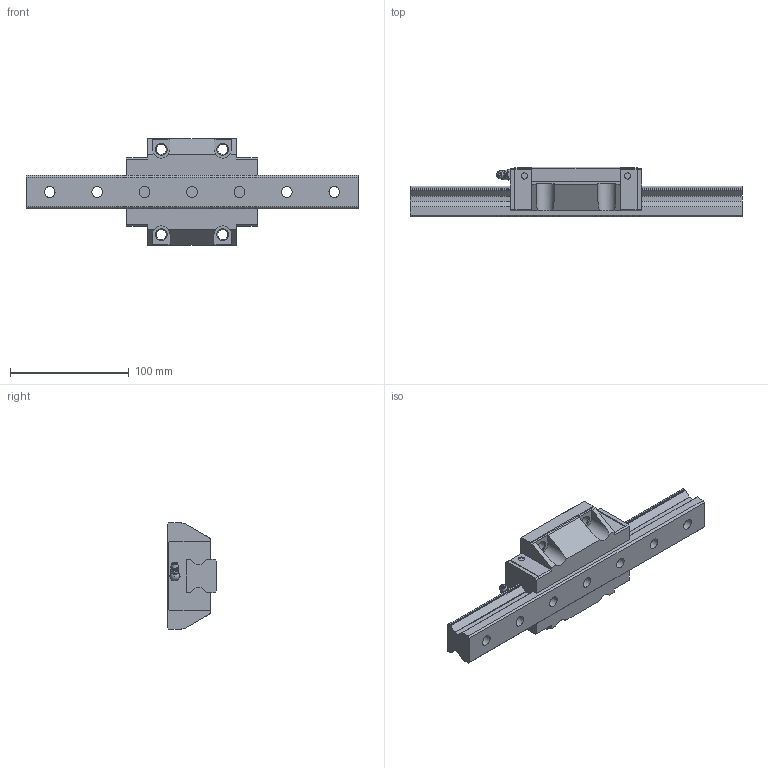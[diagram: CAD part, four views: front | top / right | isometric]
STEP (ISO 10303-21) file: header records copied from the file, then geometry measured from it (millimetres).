
FILE_DESCRIPTION(/* description */ ('STEP AP203'),/* implementation_level */ '2;1');
FILE_NAME(/* name */ 'SRG30XC1SS-280LP_G20_0_B-M6F_84-5_0_0_0_1',/* time_stamp */ '2024-05-23T09:36:40+02:00',/* author */ ('License CC BY-ND 4.0'),/* organization */ ('CADENAS'),/* preprocessor_version */ 'ST-DEVELOPER v19.3',/* originating_system */ 'PARTsolutions',/* authorisation */ ' ');
FILE_SCHEMA (('CONFIG_CONTROL_DESIGN'));
Length unit declared in the file: millimetre
Products named in the file (4): SRG30XC1SS-280LP_G20_0_B-M6F_84-5_0_0_0_1; SRG30XC28020 Track; SRG30XCSSB-M6F1 Slide25-55; SRG-B-M6F_grease_nipple_joint
Assembly tree (3 placements, depth 2):
  SRG30XC1SS-280LP_G20_0_B-M6F_84-5_0_0_0_1
    SRG30XC28020 Track
    SRG30XCSSB-M6F1 Slide25-55
    SRG-B-M6F_grease_nipple_joint
Bounding box: 280 x 42 x 90 mm (x, y, z)
Volume: 389137.7 mm3; surface area: 77725.3 mm2
Topology: 3 solids, 3 shells, 231 faces, 604 edges, 395 vertices
Faces by surface type: plane 155, cylinder 46, cone 25, sphere 3, torus 2
Full cylindrical faces by diameter (mm): 4.917 x2, 5.2 x4, 6 x1, 8 x1, 8.5 x6, 9 x7, 10.2 x2, 14 x7
Entity records: 6839 total; most frequent: CARTESIAN_POINT 1250, DIRECTION 1114, ORIENTED_EDGE 1068, EDGE_CURVE 534, VERTEX_POINT 381, LINE 376, VECTOR 376, AXIS2_PLACEMENT_3D 369
